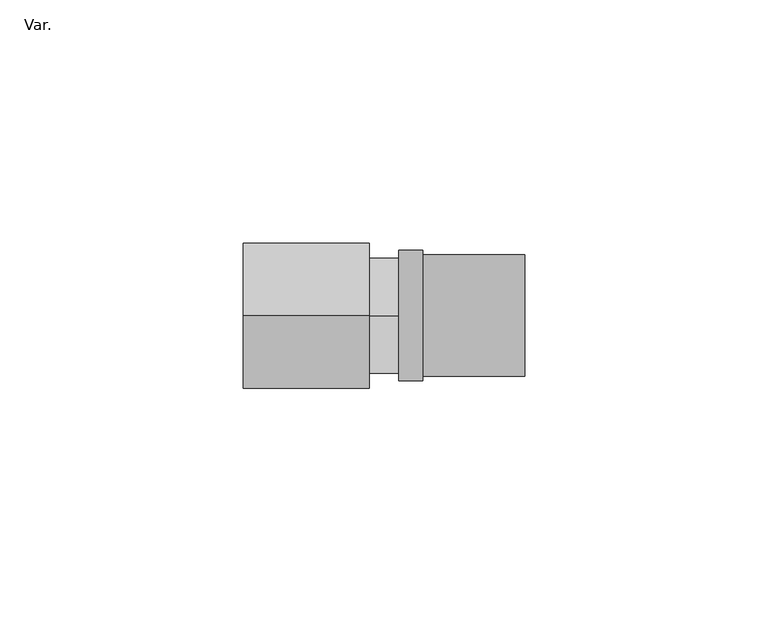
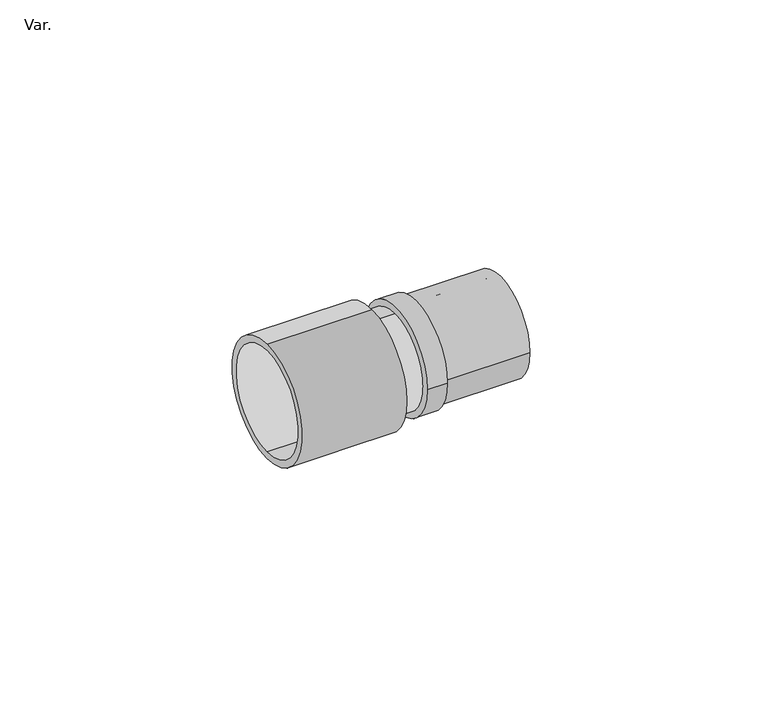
"""IFC4 building model written with IfcOpenShell, lengths in millimetres: pipe fitting geometry, Z_PIF_Tigris_Manifold_Connector_K5_Wavin_(nested) : Var.."""

from ifc_helpers import new_model, si_unit, point, frame, origin, origin_2d, place, context, project, spatial, polyline, circle_curve, trimmed, segment, composite_curve, outline, extrude, source, transform, mapped, element, save
from ifc_brep_helpers import plane_surface, cylinder_surface, revolved_surface, advanced_brep


def var_ce6fcb06(model_context):
    return source(origin(), model_context, "Body", "SolidModel", [
        extrude(outline(composite_curve([segment(trimmed(circle_curve(origin_2d(), 13.45), [point((13.45, 0.0))], [point((-13.45, 0.0))], False, "CARTESIAN"), True, "CONTINUOUS"), segment(trimmed(circle_curve(origin_2d(), 13.45), [point((-13.45, 0.0))], [point((13.45, 0.0))], False, "CARTESIAN"), True, "CONTINUOUS")], self_intersect=False)), frame((0.0, 0.0, 0.0), z_axis=(1.0, 0.0, 0.0), x_axis=(0.0, 1.0, 0.0)), (0.0, 0.0, 1.0), 5.0),
        extrude(outline(composite_curve([segment(trimmed(circle_curve(origin_2d(), 12.5), [point((12.5, 0.0))], [point((-12.5, 0.0))], False, "CARTESIAN"), True, "CONTINUOUS"), segment(trimmed(circle_curve(origin_2d(), 12.5), [point((-12.5, 0.0))], [point((12.5, 0.0))], False, "CARTESIAN"), True, "CONTINUOUS")], self_intersect=False), holes=[composite_curve([segment(trimmed(circle_curve(origin_2d(), 10.2), [point((10.2, 0.0))], [point((-10.2, 0.0))], True, "CARTESIAN"), True, "CONTINUOUS"), segment(trimmed(circle_curve(origin_2d(), 10.2), [point((-10.2, 0.0))], [point((10.2, 0.0))], True, "CARTESIAN"), True, "CONTINUOUS")], self_intersect=False)]), frame((5.0, 0.0, 0.0), z_axis=(1.0, 0.0, 0.0), x_axis=(0.0, 1.0, 0.0)), (0.0, 0.0, 1.0), 21.0),
        extrude(outline(composite_curve([segment(trimmed(circle_curve(origin_2d(), 7.9), [point((7.9, 0.0))], [point((-7.9, 0.0))], False, "CARTESIAN"), True, "CONTINUOUS"), segment(trimmed(circle_curve(origin_2d(), 7.9), [point((-7.9, 0.0))], [point((7.9, 0.0))], False, "CARTESIAN"), True, "CONTINUOUS")], self_intersect=False), holes=[composite_curve([segment(trimmed(circle_curve(origin_2d(), 5.6), [point((5.6, 0.0))], [point((-5.6, 0.0))], True, "CARTESIAN"), True, "CONTINUOUS"), segment(trimmed(circle_curve(origin_2d(), 5.6), [point((-5.6, 0.0))], [point((5.6, 0.0))], True, "CARTESIAN"), True, "CONTINUOUS")], self_intersect=False)]), frame((0.0, 0.0, 0.0), z_axis=(1.0, 0.0, 0.0), x_axis=(0.0, 1.0, 0.0)), (0.0, 0.0, 1.0), 26.0),
        extrude(outline(composite_curve([segment(trimmed(circle_curve(origin_2d(), 11.9), [point((0.0, -11.9))], [point((0.0, 11.9))], False, "CARTESIAN"), True, "CONTINUOUS"), segment(trimmed(circle_curve(origin_2d(), 11.9), [point((0.0, 11.9))], [point((0.0, -11.9))], False, "CARTESIAN"), True, "CONTINUOUS")], self_intersect=False)), frame((-6.0, 0.0, 0.0), z_axis=(1.0, 0.0, 0.0), x_axis=(0.0, 1.0, 0.0)), (0.0, 0.0, 1.0), 6.0),
        advanced_brep(
        [(-32.0, 0.0, -15.0), (-32.0, 0.0, 15.0), (-32.0, 0.0, 13.25), (-32.0, 0.0, -13.25), (-6.0, 0.0, -15.0), (-6.0, 0.0, 15.0), (-18.0, 0.0, 13.25), (-18.0, 0.0, -13.25)],
        [
            (0, 1, circle_curve(frame((-32.0, 0.0, 0.0), z_axis=(-1.0, 0.0, 0.0), x_axis=(0.0, 0.0, 1.0)), 15.0)),
            (1, 0, circle_curve(frame((-32.0, 0.0, 0.0), z_axis=(-1.0, 0.0, 0.0), x_axis=(0.0, 0.0, 1.0)), 15.0)),
            (2, 3, circle_curve(frame((-32.0, 0.0, 0.0), z_axis=(1.0, 0.0, 0.0), x_axis=(0.0, 0.0, -1.0)), 13.25)),
            (3, 2, circle_curve(frame((-32.0, 0.0, 0.0), z_axis=(1.0, 0.0, 0.0), x_axis=(0.0, 0.0, -1.0)), 13.25)),
            (4, 5, circle_curve(frame((-6.0, 0.0, 0.0), z_axis=(1.0, 0.0, 0.0), x_axis=(0.0, 0.0, 1.0)), 15.0)),
            (5, 4, circle_curve(frame((-6.0, 0.0, 0.0), z_axis=(1.0, 0.0, 0.0), x_axis=(0.0, 0.0, 1.0)), 15.0)),
            (0, 4),
            (5, 1),
            (6, 7, circle_curve(frame((-18.0, 0.0, 0.0), z_axis=(-1.0, 0.0, 0.0), x_axis=(0.0, 0.0, -1.0)), 13.25)),
            (7, 6, circle_curve(frame((-18.0, 0.0, 0.0), z_axis=(-1.0, 0.0, 0.0), x_axis=(0.0, 0.0, -1.0)), 13.25)),
            (7, 3),
            (2, 6),
        ],
        [
            plane_surface(frame((-32.0, 0.0, 15.0), z_axis=(-1.0, 0.0, 0.0), x_axis=(0.0, 1.0, 0.0))),
            plane_surface(frame((-6.0, 0.0, 15.0), z_axis=(1.0, 0.0, 0.0), x_axis=(0.0, -1.0, 0.0))),
            cylinder_surface(frame((-6.0, 0.0, 0.0), z_axis=(-1.0, 0.0, 0.0), x_axis=(0.0, 0.0, 1.0)), 15.0),
            plane_surface(frame((-18.0, 0.0, -13.25), z_axis=(-1.0, 0.0, 0.0), x_axis=(0.0, 1.0, 0.0))),
            revolved_surface(polyline([(-18.0, 0.0, -13.25), (-32.0, 0.0, -13.25)]), (-32.0, 0.0, 0.0), (1.0, 0.0, 0.0)),
        ],
        [
            (0, [[1, 2], [3, 4]]),
            (1, [[5, 6]]),
            (2, [[-1, 7, -6, 8]]),
            (2, [[-2, -8, -5, -7]]),
            (3, [[9, 10]]),
            (4, [[-10, 11, -3, 12]]),
            (4, [[-9, -12, -4, -11]]),
        ],
    ),
    ])


if __name__ == "__main__":
    model = new_model("IFC4")
    model_context = context("Model", 3, world=origin())
    ifc_project = project(units=[si_unit("LENGTHUNIT", "METRE", prefix="MILLI")], contexts=[model_context])
    site = spatial("IfcSite", under=ifc_project)
    building = spatial("IfcBuilding", under=site)
    placement = place(None, origin())
    var_shape = var_ce6fcb06(model_context)
    element("IfcPipeFitting", 1, ObjectType="Z_PIF_Tigris_Manifold_Connector_K5_Wavin_(nested) : Var.", at=placement, inside=building, context=model_context, shape_type="MappedRepresentation", body=[
        mapped(var_shape, transform((0.0, 0.0, 0.0), x_axis=(1.0, 0.0, 0.0), y_axis=(0.0, 1.0, 0.0), z_axis=(0.0, 0.0, 1.0))),
    ])
    save(model, "model.ifc")
